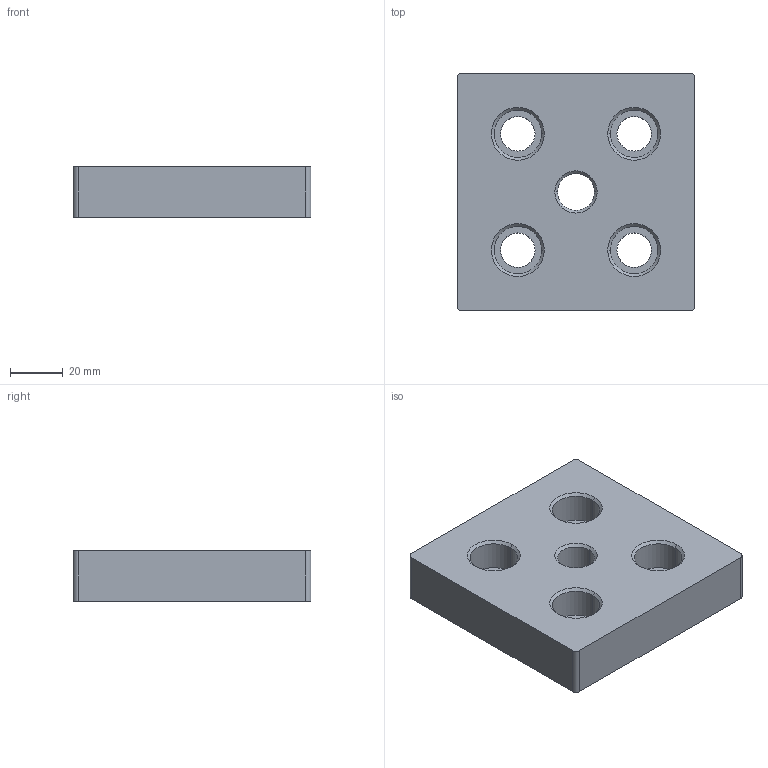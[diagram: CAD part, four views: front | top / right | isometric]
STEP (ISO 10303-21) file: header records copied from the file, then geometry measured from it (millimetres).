
FILE_DESCRIPTION (( 'STEP AP203' ), '1' );
FILE_NAME ('7006.STEP', '2016-10-05T05:39:38', ( 'RosInstal-MKM' ), ( '' ), 'SwSTEP 2.0', 'SolidWorks 2014', '' );
FILE_SCHEMA (( 'CONFIG_CONTROL_DESIGN' ));
Length unit declared in the file: millimetre
Products named in the file (1): 7006
Bounding box: 90 x 90 x 19 mm (x, y, z)
Volume: 134729.7 mm3; surface area: 26025 mm2
Topology: 1 solids, 1 shells, 52 faces, 118 edges, 72 vertices
Faces by surface type: cylinder 22, cone 20, plane 10
Entity records: 1563 total; most frequent: DIRECTION 288, CARTESIAN_POINT 243, ORIENTED_EDGE 236, EDGE_CURVE 118, AXIS2_PLACEMENT_3D 117, VERTEX_POINT 72, EDGE_LOOP 66, CIRCLE 64
